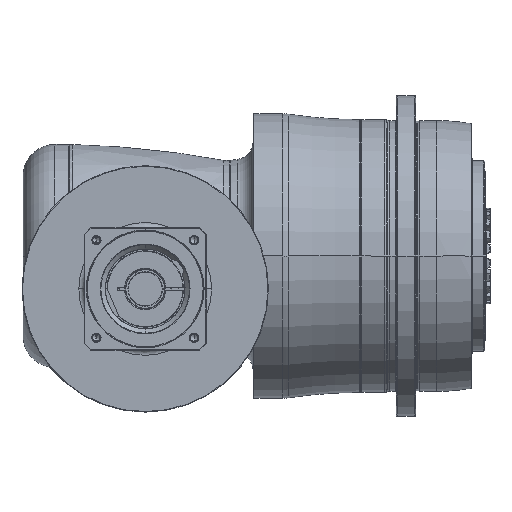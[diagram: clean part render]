
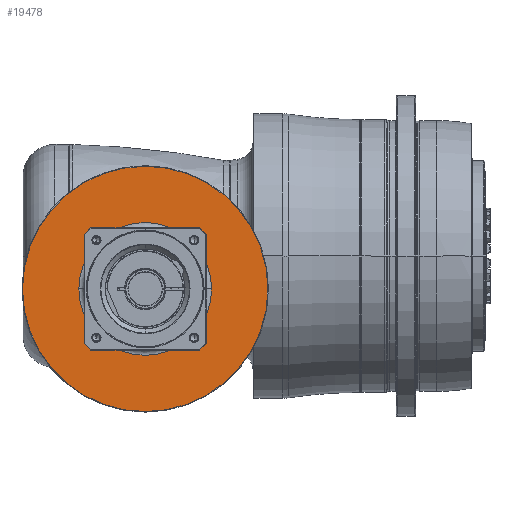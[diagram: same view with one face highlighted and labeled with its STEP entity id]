
A CAD part, front view. The second image highlights one B-rep face of the part: STEP entity #19478.
In plain terms, the highlighted planar face has unit normal (0, -1, 0) as drawn and (1, 0, 0) by its records, which use the part's own axes.
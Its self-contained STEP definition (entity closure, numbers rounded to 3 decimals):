
#18957=CARTESIAN_POINT('',(-7.5,0.,0.));
#18958=DIRECTION('',(-1.,0.,0.));
#18959=DIRECTION('',(0.,-1.,0.));
#18960=AXIS2_PLACEMENT_3D('',#18957,#18958,#18959);
#18962=CARTESIAN_POINT('',(-7.5,0.,0.));
#18963=DIRECTION('',(-1.,0.,0.));
#18964=DIRECTION('',(0.,1.,0.));
#18965=AXIS2_PLACEMENT_3D('',#18962,#18963,#18964);
#18967=CARTESIAN_POINT('',(-7.5,0.,0.));
#18968=DIRECTION('',(-1.,0.,0.));
#18969=DIRECTION('',(0.,-1.,0.));
#18970=AXIS2_PLACEMENT_3D('',#18967,#18968,#18969);
#18972=CARTESIAN_POINT('',(-7.5,0.,0.));
#18973=DIRECTION('',(-1.,0.,0.));
#18974=DIRECTION('',(0.,1.,0.));
#18975=AXIS2_PLACEMENT_3D('',#18972,#18973,#18974);
#19041=CARTESIAN_POINT('',(-7.5,-115.5,0.));
#19042=CARTESIAN_POINT('',(-7.5,115.5,0.));
#19043=VERTEX_POINT('',#19041);
#19044=VERTEX_POINT('',#19042);
#19065=CARTESIAN_POINT('',(-7.5,-62.5,0.));
#19066=CARTESIAN_POINT('',(-7.5,62.5,0.));
#19067=VERTEX_POINT('',#19065);
#19068=VERTEX_POINT('',#19066);
#19463=CARTESIAN_POINT('',(-7.5,0.,0.));
#19464=DIRECTION('',(1.,0.,0.));
#19465=DIRECTION('',(0.,-1.,0.));
#19466=AXIS2_PLACEMENT_3D('',#19463,#19464,#19465);
#19467=PLANE('',#19466);
#19468=ORIENTED_EDGE('',*,*,#19404,.T.);
#19469=ORIENTED_EDGE('',*,*,#19419,.T.);
#19470=EDGE_LOOP('',(#19468,#19469));
#19471=FACE_OUTER_BOUND('',#19470,.F.);
#19473=ORIENTED_EDGE('',*,*,#19472,.F.);
#19475=ORIENTED_EDGE('',*,*,#19474,.F.);
#19476=EDGE_LOOP('',(#19473,#19475));
#19477=FACE_BOUND('',#19476,.F.);
#19478=ADVANCED_FACE('',(#19471,#19477),#19467,.T.);
#18961=CIRCLE('',#18960,62.5);
#18966=CIRCLE('',#18965,62.5);
#18971=CIRCLE('',#18970,115.5);
#18976=CIRCLE('',#18975,115.5);
#19404=EDGE_CURVE('',#19043,#19044,#18971,.T.);
#19419=EDGE_CURVE('',#19044,#19043,#18976,.T.);
#19472=EDGE_CURVE('',#19067,#19068,#18961,.T.);
#19474=EDGE_CURVE('',#19068,#19067,#18966,.T.);
